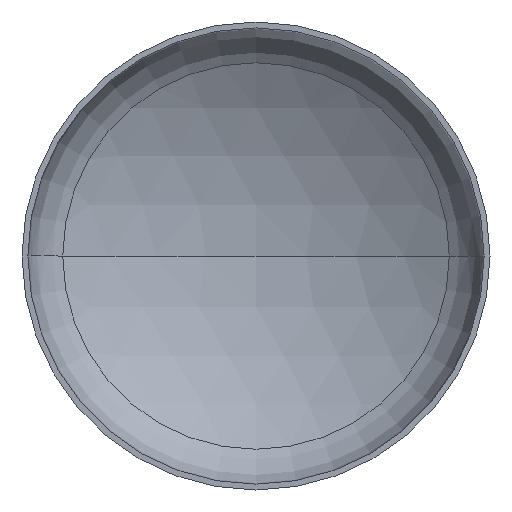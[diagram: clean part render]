
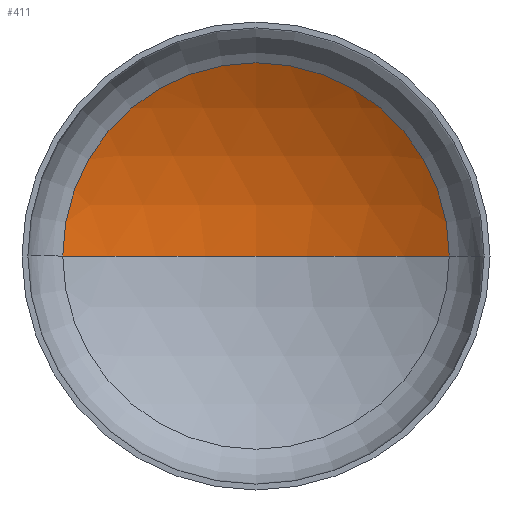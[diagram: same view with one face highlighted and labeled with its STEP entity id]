
A CAD part, front view. The second image highlights one B-rep face of the part: STEP entity #411.
In plain terms, the highlighted spherical face has radius 6000 mm.
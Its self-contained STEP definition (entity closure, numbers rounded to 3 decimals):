
#10 = FACE_OUTER_BOUND ( 'NONE', #401, .T. ) ;
#31 = AXIS2_PLACEMENT_3D ( 'NONE', #151, #145, #147 ) ;
#34 = AXIS2_PLACEMENT_3D ( 'NONE', #264, #263, #165 ) ;
#37 = AXIS2_PLACEMENT_3D ( 'NONE', #259, #122, #133 ) ;
#71 = EDGE_CURVE ( 'NONE', #98, #408, #283, .T. ) ;
#72 = EDGE_CURVE ( 'NONE', #110, #98, #128, .T. ) ;
#74 = EDGE_CURVE ( 'NONE', #110, #408, #407, .T. ) ;
#92 = CARTESIAN_POINT ( 'NONE',  ( 0., -4049.581, 0. ) ) ;
#98 = VERTEX_POINT ( 'NONE', #124 ) ;
#110 = VERTEX_POINT ( 'NONE', #156 ) ;
#122 = DIRECTION ( 'NONE',  ( 0., -1., 0. ) ) ;
#124 = CARTESIAN_POINT ( 'NONE',  ( 3097.214, 1089.219, 0. ) ) ;
#128 = CIRCLE ( 'NONE', #34, 6000. ) ;
#133 = DIRECTION ( 'NONE',  ( 1., 0., 0. ) ) ;
#145 = DIRECTION ( 'NONE',  ( 0., 0., 1. ) ) ;
#147 = DIRECTION ( 'NONE',  ( 1., 0., 0. ) ) ;
#151 = CARTESIAN_POINT ( 'NONE',  ( 0., -4049.581, 0. ) ) ;
#156 = CARTESIAN_POINT ( 'NONE',  ( 0., 1950.419, 0. ) ) ;
#165 = DIRECTION ( 'NONE',  ( -1., 0., 0. ) ) ;
#228 = AXIS2_PLACEMENT_3D ( 'NONE', #92, #243, #240 ) ;
#240 = DIRECTION ( 'NONE',  ( -1., 0., 0. ) ) ;
#243 = DIRECTION ( 'NONE',  ( 0., 0., -1. ) ) ;
#259 = CARTESIAN_POINT ( 'NONE',  ( 0., 1089.219, 0. ) ) ;
#263 = DIRECTION ( 'NONE',  ( 0., 0., -1. ) ) ;
#264 = CARTESIAN_POINT ( 'NONE',  ( 0., -4049.581, 0. ) ) ;
#269 = CARTESIAN_POINT ( 'NONE',  ( -3097.214, 1089.219, 0. ) ) ;
#283 = CIRCLE ( 'NONE', #37, 3097.214 ) ;
#324 = ORIENTED_EDGE ( 'NONE', *, *, #74, .F. ) ;
#337 = SPHERICAL_SURFACE ( 'NONE', #228, 6000. ) ;
#338 = ORIENTED_EDGE ( 'NONE', *, *, #72, .T. ) ;
#401 = EDGE_LOOP ( 'NONE', ( #324, #338, #405 ) ) ;
#405 = ORIENTED_EDGE ( 'NONE', *, *, #71, .T. ) ;
#407 = CIRCLE ( 'NONE', #31, 6000. ) ;
#408 = VERTEX_POINT ( 'NONE', #269 ) ;
#411 = ADVANCED_FACE ( 'NONE', ( #10 ), #337, .F. ) ;
